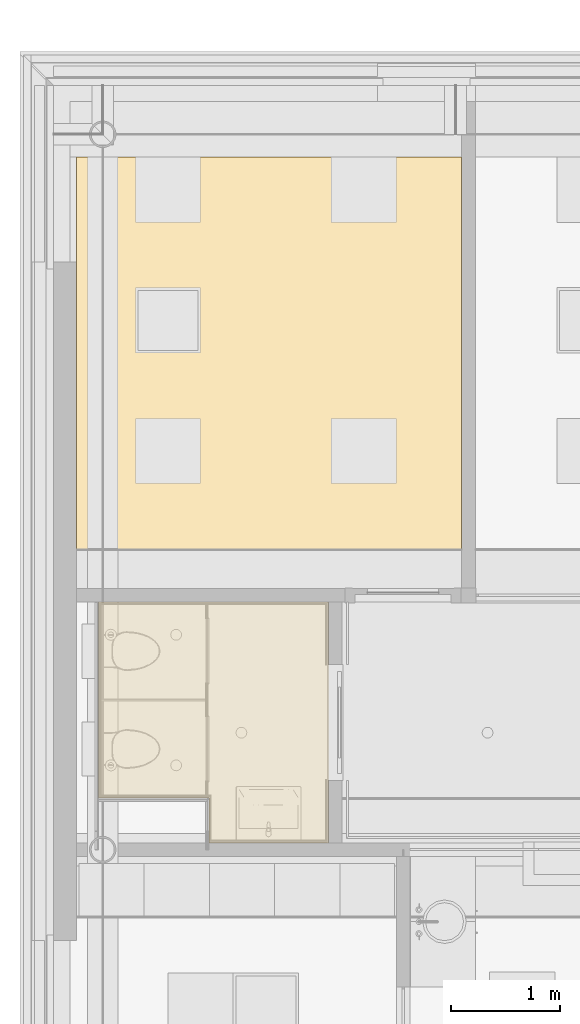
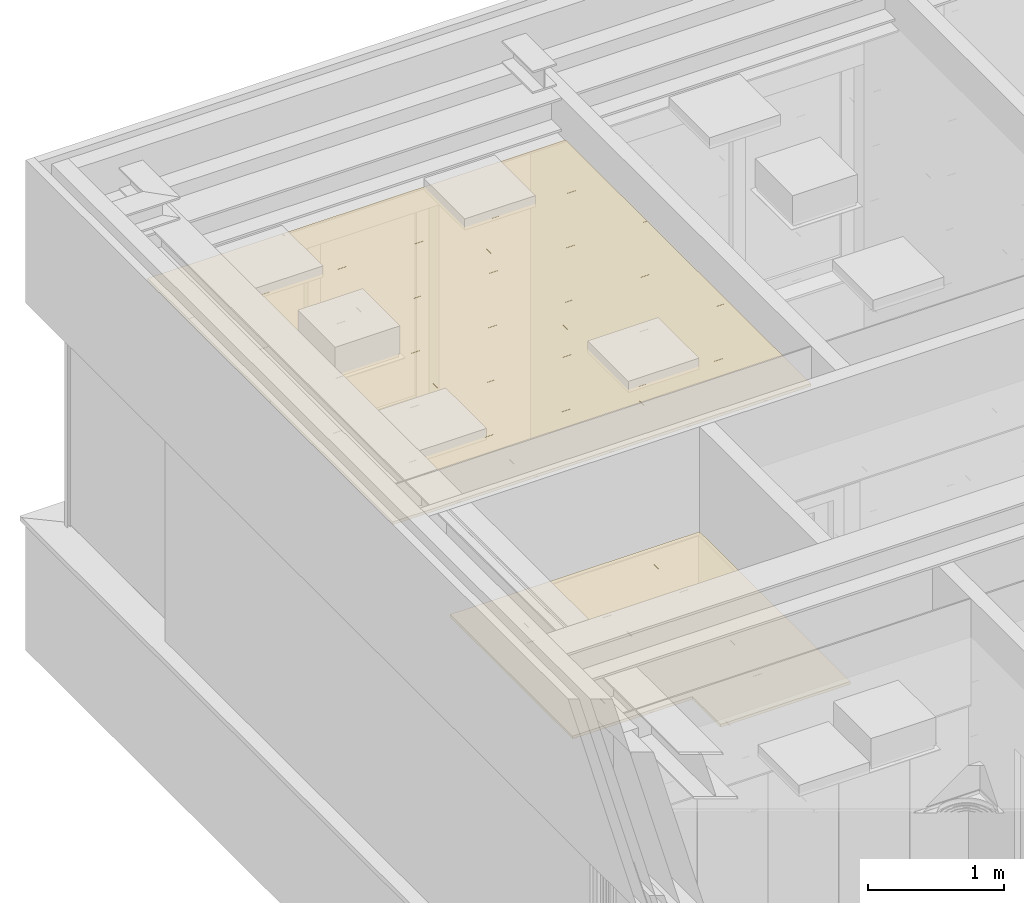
# One storey, part 159 of 347: 2 coverings.
"""IFC2X3 building model written with IfcOpenShell, lengths in millimetres."""

import ifcopenshell
import ifcopenshell.guid

model = None  # the IFC model being written
_history = None  # IfcOwnerHistory: only IFC2X3 demands one
_inside = {}  # id of a spatial element -> (the spatial element, [elements in it])
_under = {}  # id of a project, library or spatial element -> (it, [spatial elements below it])
_declared = {}  # id of a project -> (the project, [libraries it declares])
_typed = {}  # id of a type object -> (the type object, [elements of that type])
_made_of = {}  # id of a material, layer set ... -> (it, [elements and type objects made of it])


def new_model(schema):
    """Start an empty IFC model of exactly this schema.

    Asked for "IFC4X3", IfcOpenShell would pick the latest addendum, in which some entities
    have other attributes; the version numbers below select the first issue.
    IFC2X3 requires an IfcOwnerHistory on every rooted entity: one is made here for all.
    """
    global model, _history
    if schema == "IFC4X3":
        model = ifcopenshell.file(schema_version=(4, 3, 0, 0))
    else:
        model = ifcopenshell.file(schema=schema)
    _inside.clear()
    _under.clear()
    _declared.clear()
    _typed.clear()
    _made_of.clear()
    _history = None
    if model.schema == "IFC2X3":
        org = make("IfcOrganization", Name="unknown")
        user = make(
            "IfcPersonAndOrganization",
            ThePerson=make("IfcPerson", FamilyName="unknown"),
            TheOrganization=org,
        )
        app = make(
            "IfcApplication",
            ApplicationDeveloper=org,
            Version="unknown",
            ApplicationFullName="unknown",
            ApplicationIdentifier="unknown",
        )
        _history = make(
            "IfcOwnerHistory",
            OwningUser=user,
            OwningApplication=app,
            ChangeAction="ADDED",
            CreationDate=0,
        )
    return model


def make(cls, **values):
    """One entity of the class cls with the attributes given. An attribute that is None is left unset."""
    return model.create_entity(
        cls, **{name: value for name, value in values.items() if value is not None}
    )


def entity(cls, *values):
    """Any entity or typed value of the class cls, its attributes in the order of the schema. None: left unset."""
    e = model.create_entity(cls)
    for i, value in enumerate(values):
        if value is not None:
            e[i] = value
    return e


def rooted(cls, **values):
    """An entity with a GlobalId (a new one), such as an element, a storey or a relation."""
    return make(cls, GlobalId=ifcopenshell.guid.new(), OwnerHistory=_history, **values)


def si_unit(unit_type, name, prefix=None):
    """IfcSIUnit, for example si_unit("LENGTHUNIT", "METRE", prefix="MILLI")."""
    return make("IfcSIUnit", UnitType=unit_type, Prefix=prefix, Name=name)


def converted_unit(unit_type, name, factor, base, dimensions=None, offset=None):
    """IfcConversionBasedUnit, such as the inch: factor (a typed value) times the base unit."""
    return make(
        "IfcConversionBasedUnit"
        if offset is None
        else "IfcConversionBasedUnitWithOffset",
        ConversionOffset=offset,
        Dimensions=None
        if dimensions is None
        else entity("IfcDimensionalExponents", *dimensions),
        UnitType=unit_type,
        Name=name,
        ConversionFactor=make(
            "IfcMeasureWithUnit", ValueComponent=factor, UnitComponent=base
        ),
    )


def derived_unit(unit_type, elements):
    """IfcDerivedUnit: a product of units, each with its exponent."""
    return make(
        "IfcDerivedUnit",
        Elements=[
            make("IfcDerivedUnitElement", Unit=unit, Exponent=power)
            for unit, power in elements
        ],
        UnitType=unit_type,
    )


def money_unit(currency):
    """IfcMonetaryUnit."""
    return make("IfcMonetaryUnit", Currency=currency)


def assignment(units):
    """IfcUnitAssignment: the units of a project."""
    return None if units is None else make("IfcUnitAssignment", Units=units)


def point(xyz):
    """IfcCartesianPoint."""
    return None if xyz is None else make("IfcCartesianPoint", Coordinates=xyz)


def direction(xyz):
    """IfcDirection."""
    return None if xyz is None else make("IfcDirection", DirectionRatios=xyz)


def frame(location, z_axis=None, x_axis=None):
    """IfcAxis2Placement3D, a coordinate frame: its origin and axes. An axis left out is left unset."""
    return make(
        "IfcAxis2Placement3D",
        Location=point(location),
        Axis=direction(z_axis),
        RefDirection=direction(x_axis),
    )


def origin_with_axes():
    """The frame at (0, 0, 0) with the z axis (0, 0, 1) and the x axis (1, 0, 0) written out."""
    return frame((0.0, 0.0, 0.0), z_axis=(0.0, 0.0, 1.0), x_axis=(1.0, 0.0, 0.0))


def place(relative_to, where):
    """IfcLocalPlacement: puts the frame where relative to a parent placement (None: the world)."""
    return make(
        "IfcLocalPlacement", PlacementRelTo=relative_to, RelativePlacement=where
    )


def context(
    kind, dimensions, precision=None, world=None, true_north=None, identifier=None
):
    """IfcGeometricRepresentationContext, for example the 3D "Model" context."""
    return make(
        "IfcGeometricRepresentationContext",
        ContextIdentifier=identifier,
        ContextType=kind,
        CoordinateSpaceDimension=dimensions,
        Precision=precision,
        WorldCoordinateSystem=world,
        TrueNorth=true_north,
    )


def subcontext(parent, identifier, kind, view, scale=None):
    """IfcGeometricRepresentationSubContext, for example "Body" below "Model"."""
    return make(
        "IfcGeometricRepresentationSubContext",
        ContextIdentifier=identifier,
        ContextType=kind,
        ParentContext=parent,
        TargetScale=scale,
        TargetView=view,
    )


def project(units=None, contexts=None):
    """IfcProject with its units and contexts."""
    return rooted(
        "IfcProject",
        Name="project",
        RepresentationContexts=contexts,
        UnitsInContext=assignment(units),
    )


def spatial(cls, under=None, at=None, **own):
    """A site, building, storey or space (cls), placed at a placement, below another one or the project."""
    s = rooted(cls, ObjectPlacement=at, **own)
    if under is not None:
        _under.setdefault(under.id(), (under, []))[1].append(s)
    return s


def faces_of(points, faces, orient=None, outer=None):
    """IfcFace entities. A face is a list of loops; a loop is a list of indices into points, from 0.

    orient and outer hold one flag for each loop. By default every Orientation is true, the
    first loop of a face is its IfcFaceOuterBound and the others are IfcFaceBound.
    """
    made = []
    for i, loops in enumerate(faces):
        bounds = []
        for j, loop in enumerate(loops):
            is_outer = j == 0 if outer is None else outer[i][j]
            bounds.append(
                make(
                    "IfcFaceOuterBound" if is_outer else "IfcFaceBound",
                    Bound=make("IfcPolyLoop", Polygon=[points[k] for k in loop]),
                    Orientation=True if orient is None else orient[i][j],
                )
            )
        made.append(make("IfcFace", Bounds=bounds))
    return made


def faceted_brep(points, faces, orient=None, outer=None, voids=None):
    """IfcFacetedBrep: a solid bounded by flat faces; with voids (closed shells), ...WithVoids."""
    shared = [point(p) for p in points]
    hull = make("IfcClosedShell", CfsFaces=faces_of(shared, faces, orient, outer))
    if voids is None:
        return make("IfcFacetedBrep", Outer=hull)
    return make(
        "IfcFacetedBrepWithVoids",
        Outer=hull,
        Voids=[
            make(cls, CfsFaces=faces_of(shared, fs, o, b)) for cls, fs, o, b in voids
        ],
    )


def shape(context_of_items, identifier, shape_type, items):
    """IfcShapeRepresentation: the items that make up one representation, for example the "Body"."""
    return make(
        "IfcShapeRepresentation",
        ContextOfItems=context_of_items,
        RepresentationIdentifier=identifier,
        RepresentationType=shape_type,
        Items=items,
    )


def made_of(thing, what):
    """Note that an element or type object is made of a material, layer set ...; save() writes the relation."""
    if what is not None:
        _made_of.setdefault(what.id(), (what, []))[1].append(thing)
    return thing


def type_object(cls, material=None, **own):
    """A type object (cls), such as IfcWallType, which elements share."""
    return made_of(rooted(cls, **own), material)


def element(
    cls,
    number,
    at=None,
    inside=None,
    cuts=None,
    type_object=None,
    material=None,
    context=None,
    identifier="Body",
    shape_type=None,
    held_by="IfcProductDefinitionShape",
    body=None,
    shapes=None,
    **own,
):
    """One element of the class cls, such as IfcWall. Its Tag is "e" and its number.

    at: its placement. inside: the storey or other place that contains it. cuts: it is an
    opening in that element (IfcRelVoidsElement). A single representation is given by context,
    identifier, shape_type and body (its items); several are given by shapes. held_by: the class
    of the entity that holds the representations. save() writes the other relations.
    """
    e = rooted(cls, Tag="e%d" % number, ObjectPlacement=at, **own)
    if body is not None:
        shapes = [shape(context, identifier, shape_type, body)]
    if shapes is not None:
        e.Representation = make(held_by, Representations=shapes)
    if inside is not None:
        _inside.setdefault(inside.id(), (inside, []))[1].append(e)
    if cuts is not None:
        rooted(
            "IfcRelVoidsElement", RelatingBuildingElement=cuts, RelatedOpeningElement=e
        )
    if type_object is not None:
        _typed.setdefault(type_object.id(), (type_object, []))[1].append(e)
    return made_of(e, material)


def aggregate(whole, parts):
    """IfcRelAggregates: a whole, such as a stair, and the parts it consists of."""
    return rooted("IfcRelAggregates", RelatingObject=whole, RelatedObjects=parts)


def save(model, path):
    """Write the relations noted so far, then the file.

    IfcRelAggregates (storeys below a building ...), IfcRelContainedInSpatialStructure (elements
    in a storey), IfcRelDefinesByType, IfcRelAssociatesMaterial and IfcRelDeclares: one each for
    every whole, place, type object, material and project.
    """
    for whole, parts in _under.values():
        aggregate(whole, parts)
    for where, things in _inside.values():
        rooted(
            "IfcRelContainedInSpatialStructure",
            RelatedElements=things,
            RelatingStructure=where,
        )
    for kind, things in _typed.values():
        rooted("IfcRelDefinesByType", RelatedObjects=things, RelatingType=kind)
    for what, things in _made_of.values():
        rooted("IfcRelAssociatesMaterial", RelatedObjects=things, RelatingMaterial=what)
    for by, libraries in _declared.values():
        rooted("IfcRelDeclares", RelatingContext=by, RelatedDefinitions=libraries)
    model.write(path)


model = new_model("IFC2X3")

# Units and contexts
model_context = context("Model", 3, precision=0.01, world=origin_with_axes(), true_north=direction((0.0, 1.0)))
plan_context = context("Plan", 3, precision=0.01, world=origin_with_axes(), true_north=direction((0.0, 1.0)))
body_context = subcontext(model_context, "Body", "Model", "MODEL_VIEW")
ifc_project = project(units=[si_unit("LENGTHUNIT", "METRE", prefix="MILLI"), si_unit("AREAUNIT", "SQUARE_METRE"), si_unit("VOLUMEUNIT", "CUBIC_METRE"), converted_unit("PLANEANGLEUNIT", "DEGREE", entity("IfcPlaneAngleMeasure", 0.0174532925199), si_unit("PLANEANGLEUNIT", "RADIAN"), dimensions=[0, 0, 0, 0, 0, 0, 0]), money_unit("EUR"), converted_unit("TIMEUNIT", "Year", entity("IfcTimeMeasure", 31556926.0), si_unit("TIMEUNIT", "SECOND"), dimensions=[0, 0, 1, 0, 0, 0, 0]), si_unit("MASSUNIT", "GRAM", prefix="KILO"), si_unit("THERMODYNAMICTEMPERATUREUNIT", "DEGREE_CELSIUS"), si_unit("LUMINOUSINTENSITYUNIT", "LUMEN"), si_unit("ENERGYUNIT", "JOULE", prefix="MEGA"), derived_unit("THERMALCONDUCTANCEUNIT", [(si_unit("POWERUNIT", "WATT"), 1), (si_unit("LENGTHUNIT", "METRE"), -1), (si_unit("THERMODYNAMICTEMPERATUREUNIT", "KELVIN"), -1)]), derived_unit("SPECIFICHEATCAPACITYUNIT", [(si_unit("ENERGYUNIT", "JOULE"), 1), (si_unit("MASSUNIT", "GRAM", prefix="KILO"), -1), (si_unit("THERMODYNAMICTEMPERATUREUNIT", "KELVIN"), -1)]), derived_unit("MASSDENSITYUNIT", [(si_unit("MASSUNIT", "GRAM", prefix="KILO"), 1), (si_unit("VOLUMEUNIT", "CUBIC_METRE"), -1)])], contexts=[model_context, plan_context])

# Site, building, storey
site_placement = place(None, origin_with_axes())
site = spatial("IfcSite", under=ifc_project, at=site_placement, Name="Site", CompositionType="ELEMENT")
building_placement = place(site_placement, origin_with_axes())
building = spatial("IfcBuilding", under=site, at=building_placement, Name="Naam gebouw", CompositionType="ELEMENT")
storey_placement = place(building_placement, origin_with_axes())
storey = spatial("IfcBuildingStorey", under=building, at=storey_placement, Name="begane grond", CompositionType="ELEMENT", Elevation=0.0)

# Coverings
covering_type = type_object("IfcCoveringType", Name="Ceiling Editor INT_v2.01", PredefinedType="CEILING")
covering_1_placement = place(storey_placement, frame((5260.0, 12600.0, 2600.0), z_axis=(0.0, 0.0, 1.0), x_axis=(1.0, 0.0, 0.0)))
element("IfcCovering", 1, at=covering_1_placement, inside=storey, type_object=covering_type, Name="45 Plafondafwerkingen_77 garderobe", PredefinedType="CEILING", context=body_context, shape_type="Brep", body=[
    faceted_brep([(0.0, 1199.9, 0.0), (0.0, 1199.9, 20.0), (414.900026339, 1199.9, 20.0), (414.900026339, 1199.9, 0.0), (0.0, 900.0, 0.0), (0.0, 900.0, 20.0), (0.0, 450.0, 20.0), (0.0, 0.1, 20.0), (414.900026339, 0.1, 20.0), (414.900026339, 0.1, 0.0), (0.0, 0.1, 0.0), (0.0, 450.0, 0.0)], [[[0, 1, 2, 3]], [[1, 0, 4, 5]], [[6, 7, 8, 2, 1, 5]], [[8, 9, 3, 2]], [[4, 0, 3, 9, 10, 11]], [[6, 5, 4, 11]], [[7, 6, 11, 10]], [[7, 10, 9, 8]]]),
    faceted_brep([(414.900026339, 1800.0, 0.0), (414.900026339, 1800.0, 20.0), (414.900026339, 1200.1, 20.0), (414.900026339, 1200.1, 0.0), (0.0, 1800.0, 0.0), (0.0, 1800.0, 20.0), (0.0, 1350.0, 20.0), (0.0, 1200.1, 20.0), (0.0, 1200.1, 0.0), (0.0, 1350.0, 0.0)], [[[0, 1, 2, 3]], [[1, 0, 4, 5]], [[6, 7, 2, 1, 5]], [[7, 8, 3, 2]], [[4, 0, 3, 8, 9]], [[6, 5, 4, 9]], [[7, 6, 9, 8]]]),
    faceted_brep([(1014.90002634, 0.1, 20.0), (1014.90002634, 0.1, 0.0), (1014.90002634, 1199.9, 0.0), (1014.90002634, 1199.9, 20.0), (415.100026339, 0.1, 20.0), (415.100026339, 0.1, 0.0), (415.100026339, 1199.9, 0.0), (415.100026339, 1199.9, 20.0)], [[[0, 1, 2, 3]], [[4, 5, 1, 0]], [[2, 1, 5, 6]], [[3, 2, 6, 7]], [[4, 0, 3, 7]], [[7, 6, 5, 4]]]),
    faceted_brep([(1014.90002634, 1800.0, 0.0), (1014.90002634, 1800.0, 20.0), (1014.90002634, 1200.1, 20.0), (1014.90002634, 1200.1, 0.0), (528.75, 1800.0, 0.0), (528.75, 1800.0, 20.0), (415.100026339, 1800.0, 20.0), (415.100026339, 1200.1, 20.0), (415.100026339, 1200.1, 0.0), (415.100026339, 1800.0, 0.0)], [[[0, 1, 2, 3]], [[1, 0, 4, 5]], [[5, 6, 7, 2, 1]], [[7, 8, 3, 2]], [[4, 0, 3, 8, 9]], [[6, 5, 4, 9]], [[6, 9, 8, 7]]]),
    faceted_brep([(1015.10002634, -412.5, 20.0), (1614.90002634, -412.5, 20.0), (1614.90002634, -0.1, 20.0), (1015.10002634, -0.1, 20.0), (1015.10002634, -412.5, 0.0), (1614.90002634, -412.5, 0.0), (1614.90002634, -0.1, 0.0), (1015.10002634, -0.1, 0.0)], [[[0, 1, 2, 3]], [[1, 0, 4, 5]], [[1, 5, 6, 2]], [[2, 6, 7, 3]], [[4, 0, 3, 7]], [[5, 4, 7, 6]]]),
    faceted_brep([(1614.90002634, 0.1, 20.0), (1614.90002634, 0.1, 0.0), (1614.90002634, 1199.9, 0.0), (1614.90002634, 1199.9, 20.0), (1015.10002634, 0.1, 20.0), (1015.10002634, 0.1, 0.0), (1015.10002634, 1199.9, 0.0), (1015.10002634, 1199.9, 20.0)], [[[0, 1, 2, 3]], [[4, 5, 1, 0]], [[2, 1, 5, 6]], [[3, 2, 6, 7]], [[4, 0, 3, 7]], [[7, 6, 5, 4]]]),
    faceted_brep([(1614.90002634, 1800.0, 0.0), (1614.90002634, 1800.0, 20.0), (1614.90002634, 1200.1, 20.0), (1614.90002634, 1200.1, 0.0), (1586.25, 1800.0, 0.0), (1586.25, 1800.0, 20.0), (1057.5, 1800.0, 20.0), (1015.10002634, 1800.0, 20.0), (1015.10002634, 1200.1, 20.0), (1015.10002634, 1200.1, 0.0), (1015.10002634, 1800.0, 0.0), (1057.5, 1800.0, 0.0)], [[[0, 1, 2, 3]], [[1, 0, 4, 5]], [[6, 7, 8, 2, 1, 5]], [[8, 9, 3, 2]], [[4, 0, 3, 9, 10, 11]], [[6, 5, 4, 11]], [[7, 6, 11, 10]], [[7, 10, 9, 8]]]),
    faceted_brep([(2115.0, -412.5, 20.0), (2115.0, -0.1, 20.0), (1615.10002634, -0.1, 20.0), (1615.10002634, -412.5, 20.0), (2115.0, -412.5, 0.0), (2115.0, -0.1, 0.0), (1615.10002634, -0.1, 0.0), (1615.10002634, -412.5, 0.0)], [[[0, 1, 2, 3]], [[1, 0, 4, 5]], [[1, 5, 6, 2]], [[7, 3, 2, 6]], [[0, 3, 7, 4]], [[4, 7, 6, 5]]]),
    faceted_brep([(2115.0, 900.0, 20.0), (2115.0, 1199.9, 20.0), (1615.10002634, 1199.9, 20.0), (1615.10002634, 0.1, 20.0), (2115.0, 0.1, 20.0), (2115.0, 450.0, 20.0), (2115.0, 900.0, 0.0), (2115.0, 1199.9, 0.0), (1615.10002634, 1199.9, 0.0), (1615.10002634, 0.1, 0.0), (2115.0, 0.1, 0.0), (2115.0, 450.0, 0.0)], [[[0, 1, 2, 3, 4, 5]], [[1, 0, 6, 7]], [[1, 7, 8, 2]], [[2, 8, 9, 3]], [[10, 4, 3, 9]], [[5, 4, 10, 11]], [[0, 5, 11, 6]], [[11, 10, 9, 8, 7, 6]]]),
    faceted_brep([(2115.0, 1350.0, 20.0), (2115.0, 1800.0, 20.0), (1615.10002634, 1800.0, 20.0), (1615.10002634, 1200.1, 20.0), (2115.0, 1200.1, 20.0), (2115.0, 1350.0, 0.0), (2115.0, 1800.0, 0.0), (1615.10002634, 1800.0, 0.0), (1615.10002634, 1200.1, 0.0), (2115.0, 1200.1, 0.0)], [[[0, 1, 2, 3, 4]], [[1, 0, 5, 6]], [[2, 1, 6, 7]], [[2, 7, 8, 3]], [[9, 4, 3, 8]], [[0, 4, 9, 5]], [[5, 9, 8, 7, 6]]]),
    faceted_brep([(1002.50002634, 25.0, -5.0), (1002.50002634, 25.0, 0.0), (1002.50002634, 1187.5, 0.0), (1002.50002634, 1187.5, -5.0), (427.500026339, 25.0, -5.0), (427.500026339, 25.0, 0.0), (2115.0, -412.5, 0.0), (2115.0, -12.5, 0.0), (2115.0, 12.5, 0.0), (2115.0, 1187.5, 0.0), (2115.0, 1212.5, 0.0), (2115.0, 1800.0, 0.0), (1627.50002634, 1800.0, 0.0), (1602.50002634, 1800.0, 0.0), (1027.50002634, 1800.0, 0.0), (1002.50002634, 1800.0, 0.0), (427.500026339, 1800.0, 0.0), (402.500026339, 1800.0, 0.0), (0.0, 1800.0, 0.0), (0.0, 1212.5, 0.0), (0.0, 1187.5, 0.0), (0.0, 12.5, 0.0), (0.0, 0.0, 0.0), (528.75, 0.0, 0.0), (1015.00002634, 0.0, 0.0), (1015.00002634, -412.5, 0.0), (1027.50002634, -412.5, 0.0), (1602.50002634, -412.5, 0.0), (1627.50002634, -412.5, 0.0), (427.500026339, 1187.5, 0.0), (1040.00002634, 25.0, 0.0), (1027.50002634, 25.0, 0.0), (1027.50002634, 1187.5, 0.0), (1602.50002634, 1187.5, 0.0), (1602.50002634, 12.5, 0.0), (1040.00002634, 12.5, 0.0), (25.0, 1187.5, 0.0), (402.500026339, 1187.5, 0.0), (402.500026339, 25.0, 0.0), (25.0, 25.0, 0.0), (402.500026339, 1775.0, 0.0), (402.500026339, 1212.5, 0.0), (25.0, 1212.5, 0.0), (25.0, 1775.0, 0.0), (1002.50002634, 1775.0, 0.0), (1002.50002634, 1212.5, 0.0), (427.500026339, 1212.5, 0.0), (427.500026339, 1775.0, 0.0), (1602.50002634, 1775.0, 0.0), (1602.50002634, 1212.5, 0.0), (1027.50002634, 1212.5, 0.0), (1027.50002634, 1775.0, 0.0), (2090.0, 1212.5, 0.0), (1627.50002634, 1212.5, 0.0), (1627.50002634, 1775.0, 0.0), (2090.0, 1775.0, 0.0), (2090.0, 12.5, 0.0), (1627.50002634, 12.5, 0.0), (1627.50002634, 1187.5, 0.0), (2090.0, 1187.5, 0.0), (1040.00002634, -12.5, 0.0), (1602.50002634, -12.5, 0.0), (1602.50002634, -387.5, 0.0), (1040.00002634, -387.5, 0.0), (2090.0, -387.5, 0.0), (1627.50002634, -387.5, 0.0), (1627.50002634, -12.5, 0.0), (2090.0, -12.5, 0.0), (427.500026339, 1187.5, -5.0), (2115.0, -412.5, -5.0), (1627.50002634, -412.5, -5.0), (1602.50002634, -412.5, -5.0), (1027.50002634, -412.5, -5.0), (1015.00002634, -412.5, -5.0), (1015.00002634, 0.0, -5.0), (528.75, 0.0, -5.0), (0.0, 0.0, -5.0), (0.0, 12.5, -5.0), (0.0, 1187.5, -5.0), (0.0, 1212.5, -5.0), (0.0, 1800.0, -5.0), (402.500026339, 1800.0, -5.0), (427.500026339, 1800.0, -5.0), (1002.50002634, 1800.0, -5.0), (1027.50002634, 1800.0, -5.0), (1602.50002634, 1800.0, -5.0), (1627.50002634, 1800.0, -5.0), (2115.0, 1800.0, -5.0), (2115.0, 1212.5, -5.0), (2115.0, 1187.5, -5.0), (2115.0, 12.5, -5.0), (2115.0, -12.5, -5.0), (1040.00002634, 25.0, -5.0), (1040.00002634, 12.5, -5.0), (1602.50002634, 12.5, -5.0), (1602.50002634, 1187.5, -5.0), (1027.50002634, 1187.5, -5.0), (1027.50002634, 25.0, -5.0), (25.0, 1187.5, -5.0), (25.0, 25.0, -5.0), (402.500026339, 25.0, -5.0), (402.500026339, 1187.5, -5.0), (402.500026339, 1775.0, -5.0), (25.0, 1775.0, -5.0), (25.0, 1212.5, -5.0), (402.500026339, 1212.5, -5.0), (1002.50002634, 1775.0, -5.0), (427.500026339, 1775.0, -5.0), (427.500026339, 1212.5, -5.0), (1002.50002634, 1212.5, -5.0), (1602.50002634, 1775.0, -5.0), (1027.50002634, 1775.0, -5.0), (1027.50002634, 1212.5, -5.0), (1602.50002634, 1212.5, -5.0), (2090.0, 1775.0, -5.0), (1627.50002634, 1775.0, -5.0), (1627.50002634, 1212.5, -5.0), (2090.0, 1212.5, -5.0), (2090.0, 1187.5, -5.0), (1627.50002634, 1187.5, -5.0), (1627.50002634, 12.5, -5.0), (2090.0, 12.5, -5.0), (1040.00002634, -387.5, -5.0), (1602.50002634, -387.5, -5.0), (1602.50002634, -12.5, -5.0), (1040.00002634, -12.5, -5.0), (2090.0, -387.5, -5.0), (2090.0, -12.5, -5.0), (1627.50002634, -12.5, -5.0), (1627.50002634, -387.5, -5.0)], [[[0, 1, 2, 3]], [[1, 0, 4, 5]], [[6, 7, 8, 9, 10, 11, 12, 13, 14, 15, 16, 17, 18, 19, 20, 21, 22, 23, 24, 25, 26, 27, 28], [1, 5, 29, 2], [30, 31, 32, 33, 34, 35], [36, 37, 38, 39], [40, 41, 42, 43], [44, 45, 46, 47], [48, 49, 50, 51], [52, 53, 54, 55], [56, 57, 58, 59], [60, 61, 62, 63], [64, 65, 66, 67]], [[68, 3, 2, 29]], [[69, 70, 71, 72, 73, 74, 75, 76, 77, 78, 79, 80, 81, 82, 83, 84, 85, 86, 87, 88, 89, 90, 91], [0, 3, 68, 4], [92, 93, 94, 95, 96, 97], [98, 99, 100, 101], [102, 103, 104, 105], [106, 107, 108, 109], [110, 111, 112, 113], [114, 115, 116, 117], [118, 119, 120, 121], [122, 123, 124, 125], [126, 127, 128, 129]], [[5, 4, 68, 29]], [[6, 69, 91, 90, 89, 88, 87, 11, 10, 9, 8, 7]], [[11, 87, 86, 85, 84, 83, 82, 81, 80, 18, 17, 16, 15, 14, 13, 12]], [[18, 80, 79, 78, 77, 76, 22, 21, 20, 19]], [[75, 23, 22, 76]], [[23, 75, 74, 24]], [[74, 73, 25, 24]], [[69, 6, 28, 27, 26, 25, 73, 72, 71, 70]], [[30, 92, 97, 31]], [[31, 97, 96, 32]], [[96, 95, 33, 32]], [[95, 94, 34, 33]], [[93, 35, 34, 94]], [[92, 30, 35, 93]], [[36, 98, 101, 37]], [[100, 38, 37, 101]], [[99, 39, 38, 100]], [[98, 36, 39, 99]], [[40, 102, 105, 41]], [[104, 42, 41, 105]], [[103, 43, 42, 104]], [[102, 40, 43, 103]], [[44, 106, 109, 45]], [[46, 45, 109, 108]], [[107, 47, 46, 108]], [[106, 44, 47, 107]], [[48, 110, 113, 49]], [[50, 49, 113, 112]], [[111, 51, 50, 112]], [[110, 48, 51, 111]], [[52, 117, 116, 53]], [[115, 54, 53, 116]], [[114, 55, 54, 115]], [[52, 55, 114, 117]], [[56, 121, 120, 57]], [[58, 57, 120, 119]], [[118, 59, 58, 119]], [[56, 59, 118, 121]], [[60, 125, 124, 61]], [[123, 62, 61, 124]], [[122, 63, 62, 123]], [[125, 60, 63, 122]], [[64, 126, 129, 65]], [[65, 129, 128, 66]], [[127, 67, 66, 128]], [[126, 64, 67, 127]]]),
])
covering_2_placement = place(storey_placement, frame((5060.0, 14890.0000948, 3200.0), z_axis=(0.0, 0.0, 1.0), x_axis=(1.0, 0.0, 0.0)))
element("IfcCovering", 2, at=covering_2_placement, inside=storey, type_object=covering_type, Name="45 Plafondafwerkingen_77 garderobe", PredefinedType="CEILING", context=body_context, shape_type="Brep", body=[
    faceted_brep([(0.0, 599.9, 0.0), (0.0, 599.9, 20.0), (1139.9, 599.9, 20.0), (1139.9, 599.9, 0.0), (0.0, 0.100000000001, 0.0), (0.0, 0.100000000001, 20.0), (1139.9, 0.100000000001, 20.0), (1139.9, 0.100000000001, 0.0)], [[[0, 1, 2, 3]], [[1, 0, 4, 5]], [[1, 5, 6, 2]], [[6, 7, 3, 2]], [[4, 0, 3, 7]], [[5, 4, 7, 6]]]),
    faceted_brep([(0.0, 1199.9, 0.0), (0.0, 1199.9, 20.0), (1139.9, 1199.9, 20.0), (1139.9, 1199.9, 0.0), (0.0, 900.000012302, 0.0), (0.0, 900.000012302, 20.0), (0.0, 600.1, 20.0), (1139.9, 600.1, 20.0), (1139.9, 600.1, 0.0), (0.0, 600.1, 0.0)], [[[0, 1, 2, 3]], [[1, 0, 4, 5]], [[5, 6, 7, 2, 1]], [[7, 8, 3, 2]], [[4, 0, 3, 8, 9]], [[6, 5, 4, 9]], [[6, 9, 8, 7]]]),
    faceted_brep([(0.0, 1799.9, 0.0), (0.0, 1799.9, 20.0), (1139.9, 1799.9, 20.0), (1139.9, 1799.9, 0.0), (0.0, 1200.1, 0.0), (0.0, 1200.1, 20.0), (1139.9, 1200.1, 20.0), (1139.9, 1200.1, 0.0)], [[[0, 1, 2, 3]], [[1, 0, 4, 5]], [[1, 5, 6, 2]], [[6, 7, 3, 2]], [[4, 0, 3, 7]], [[5, 4, 7, 6]]]),
    faceted_brep([(0.0, 2399.9, 0.0), (0.0, 2399.9, 20.0), (1139.9, 2399.9, 20.0), (1139.9, 2399.9, 0.0), (0.0, 1800.1, 0.0), (0.0, 1800.1, 20.0), (1139.9, 1800.1, 20.0), (1139.9, 1800.1, 0.0)], [[[0, 1, 2, 3]], [[1, 0, 4, 5]], [[1, 5, 6, 2]], [[6, 7, 3, 2]], [[4, 0, 3, 7]], [[5, 4, 7, 6]]]),
    faceted_brep([(0.0, 2999.9, 0.0), (0.0, 2999.9, 20.0), (1139.9, 2999.9, 20.0), (1139.9, 2999.9, 0.0), (0.0, 2700.00003691, 0.0), (0.0, 2700.00003691, 20.0), (0.0, 2400.1, 20.0), (1139.9, 2400.1, 20.0), (1139.9, 2400.1, 0.0), (0.0, 2400.1, 0.0)], [[[0, 1, 2, 3]], [[1, 0, 4, 5]], [[5, 6, 7, 2, 1]], [[7, 8, 3, 2]], [[4, 0, 3, 8, 9]], [[6, 5, 4, 9]], [[6, 9, 8, 7]]]),
    faceted_brep([(0.0, 3599.9, 0.0), (0.0, 3599.9, 20.0), (1139.9, 3599.9, 20.0), (1139.9, 3599.9, 0.0), (0.0, 3000.1, 0.0), (0.0, 3000.1, 20.0), (1139.9, 3000.1, 20.0), (1139.9, 3000.1, 0.0)], [[[0, 1, 2, 3]], [[1, 0, 4, 5]], [[1, 5, 6, 2]], [[6, 7, 3, 2]], [[4, 0, 3, 7]], [[5, 4, 7, 6]]]),
    faceted_brep([(2339.9, 0.100000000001, 20.0), (2339.9, 0.100000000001, 0.0), (2339.9, 599.9, 0.0), (2339.9, 599.9, 20.0), (1140.1, 0.100000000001, 20.0), (1140.1, 0.100000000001, 0.0), (1140.1, 599.9, 0.0), (1140.1, 599.9, 20.0)], [[[0, 1, 2, 3]], [[4, 5, 1, 0]], [[2, 1, 5, 6]], [[3, 2, 6, 7]], [[4, 0, 3, 7]], [[7, 6, 5, 4]]]),
    faceted_brep([(2339.9, 600.1, 20.0), (2339.9, 600.1, 0.0), (2339.9, 1199.9, 0.0), (2339.9, 1199.9, 20.0), (1140.1, 600.1, 20.0), (1140.1, 600.1, 0.0), (1140.1, 1199.9, 0.0), (1140.1, 1199.9, 20.0)], [[[0, 1, 2, 3]], [[4, 5, 1, 0]], [[2, 1, 5, 6]], [[3, 2, 6, 7]], [[4, 0, 3, 7]], [[7, 6, 5, 4]]]),
    faceted_brep([(2339.9, 1200.1, 20.0), (2339.9, 1200.1, 0.0), (2339.9, 1799.9, 0.0), (2339.9, 1799.9, 20.0), (1140.1, 1200.1, 20.0), (1140.1, 1200.1, 0.0), (1140.1, 1799.9, 0.0), (1140.1, 1799.9, 20.0)], [[[0, 1, 2, 3]], [[4, 5, 1, 0]], [[2, 1, 5, 6]], [[3, 2, 6, 7]], [[4, 0, 3, 7]], [[7, 6, 5, 4]]]),
    faceted_brep([(2339.9, 1800.1, 20.0), (2339.9, 1800.1, 0.0), (2339.9, 2399.9, 0.0), (2339.9, 2399.9, 20.0), (1140.1, 1800.1, 20.0), (1140.1, 1800.1, 0.0), (1140.1, 2399.9, 0.0), (1140.1, 2399.9, 20.0)], [[[0, 1, 2, 3]], [[4, 5, 1, 0]], [[2, 1, 5, 6]], [[3, 2, 6, 7]], [[4, 0, 3, 7]], [[7, 6, 5, 4]]]),
    faceted_brep([(2339.9, 2400.1, 20.0), (2339.9, 2400.1, 0.0), (2339.9, 2999.9, 0.0), (2339.9, 2999.9, 20.0), (1140.1, 2400.1, 20.0), (1140.1, 2400.1, 0.0), (1140.1, 2999.9, 0.0), (1140.1, 2999.9, 20.0)], [[[0, 1, 2, 3]], [[4, 5, 1, 0]], [[2, 1, 5, 6]], [[3, 2, 6, 7]], [[4, 0, 3, 7]], [[7, 6, 5, 4]]]),
    faceted_brep([(2339.9, 3000.1, 20.0), (2339.9, 3000.1, 0.0), (2339.9, 3599.9, 0.0), (2339.9, 3599.9, 20.0), (1140.1, 3000.1, 20.0), (1140.1, 3000.1, 0.0), (1140.1, 3599.9, 0.0), (1140.1, 3599.9, 20.0)], [[[0, 1, 2, 3]], [[4, 5, 1, 0]], [[2, 1, 5, 6]], [[3, 2, 6, 7]], [[4, 0, 3, 7]], [[7, 6, 5, 4]]]),
    faceted_brep([(3539.9, 0.100000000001, 20.0), (3539.9, 0.100000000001, 0.0), (3539.9, 599.9, 0.0), (3539.9, 599.9, 20.0), (2340.1, 0.100000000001, 20.0), (2340.1, 0.100000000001, 0.0), (2340.1, 599.9, 0.0), (2340.1, 599.9, 20.0)], [[[0, 1, 2, 3]], [[4, 5, 1, 0]], [[2, 1, 5, 6]], [[3, 2, 6, 7]], [[4, 0, 3, 7]], [[7, 6, 5, 4]]]),
    faceted_brep([(3539.9, 600.1, 20.0), (3539.9, 600.1, 0.0), (3539.9, 1199.9, 0.0), (3539.9, 1199.9, 20.0), (2340.1, 600.1, 20.0), (2340.1, 600.1, 0.0), (2340.1, 1199.9, 0.0), (2340.1, 1199.9, 20.0)], [[[0, 1, 2, 3]], [[4, 5, 1, 0]], [[2, 1, 5, 6]], [[3, 2, 6, 7]], [[4, 0, 3, 7]], [[7, 6, 5, 4]]]),
    faceted_brep([(3539.9, 1200.1, 20.0), (3539.9, 1200.1, 0.0), (3539.9, 1799.9, 0.0), (3539.9, 1799.9, 20.0), (2340.1, 1200.1, 20.0), (2340.1, 1200.1, 0.0), (2340.1, 1799.9, 0.0), (2340.1, 1799.9, 20.0)], [[[0, 1, 2, 3]], [[4, 5, 1, 0]], [[2, 1, 5, 6]], [[3, 2, 6, 7]], [[4, 0, 3, 7]], [[7, 6, 5, 4]]]),
    faceted_brep([(3539.9, 1800.1, 20.0), (3539.9, 1800.1, 0.0), (3539.9, 2399.9, 0.0), (3539.9, 2399.9, 20.0), (2340.1, 1800.1, 20.0), (2340.1, 1800.1, 0.0), (2340.1, 2399.9, 0.0), (2340.1, 2399.9, 20.0)], [[[0, 1, 2, 3]], [[4, 5, 1, 0]], [[2, 1, 5, 6]], [[3, 2, 6, 7]], [[4, 0, 3, 7]], [[7, 6, 5, 4]]]),
    faceted_brep([(3539.9, 2400.1, 20.0), (3539.9, 2400.1, 0.0), (3539.9, 2999.9, 0.0), (3539.9, 2999.9, 20.0), (2340.1, 2400.1, 20.0), (2340.1, 2400.1, 0.0), (2340.1, 2999.9, 0.0), (2340.1, 2999.9, 20.0)], [[[0, 1, 2, 3]], [[4, 5, 1, 0]], [[2, 1, 5, 6]], [[3, 2, 6, 7]], [[4, 0, 3, 7]], [[7, 6, 5, 4]]]),
    faceted_brep([(3539.9, 3000.1, 20.0), (3539.9, 3000.1, 0.0), (3539.9, 3599.9, 0.0), (3539.9, 3599.9, 20.0), (2340.1, 3000.1, 20.0), (2340.1, 3000.1, 0.0), (2340.1, 3599.9, 0.0), (2340.1, 3599.9, 20.0)], [[[0, 1, 2, 3]], [[4, 5, 1, 0]], [[2, 1, 5, 6]], [[3, 2, 6, 7]], [[4, 0, 3, 7]], [[7, 6, 5, 4]]]),
    faceted_brep([(1127.5, 25.0, -5.0), (1127.5, 25.0, 0.0), (1127.5, 587.5, 0.0), (1127.5, 587.5, -5.0), (25.0, 25.0, -5.0), (25.0, 25.0, 0.0), (0.0, 2987.5, 0.0), (0.0, 2412.5, 0.0), (0.0, 2387.5, 0.0), (0.0, 1812.5, 0.0), (0.0, 1800.0000246, 0.0), (0.0, 1787.5, 0.0), (0.0, 1212.5, 0.0), (0.0, 1187.5, 0.0), (0.0, 612.5, 0.0), (0.0, 587.5, 0.0), (0.0, 12.5, 0.0), (0.0, 0.0, 0.0), (885.0, 0.0, 0.0), (1770.0, 0.0, 0.0), (2655.0, 0.0, 0.0), (3540.0, 0.0, 0.0), (3540.0, 900.000012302, 0.0), (3540.0, 1800.0000246, 0.0), (3540.0, 2700.00003691, 0.0), (3540.0, 3600.00004921, 0.0), (2655.0, 3600.00004921, 0.0), (1770.0, 3600.00004921, 0.0), (885.0, 3600.00004921, 0.0), (0.0, 3600.00004921, 0.0), (0.0, 3587.5, 0.0), (0.0, 3012.5, 0.0), (1152.5, 2987.5, 0.0), (2327.5, 2987.5, 0.0), (2327.5, 2412.5, 0.0), (1152.5, 2412.5, 0.0), (3515.0, 2412.5, 0.0), (2352.5, 2412.5, 0.0), (2352.5, 2987.5, 0.0), (3515.0, 2987.5, 0.0), (1152.5, 25.0, 0.0), (1152.5, 587.5, 0.0), (2327.5, 587.5, 0.0), (2327.5, 25.0, 0.0), (2352.5, 25.0, 0.0), (2352.5, 587.5, 0.0), (3515.0, 587.5, 0.0), (3515.0, 25.0, 0.0), (1152.5, 1187.5, 0.0), (2327.5, 1187.5, 0.0), (2327.5, 612.5, 0.0), (1152.5, 612.5, 0.0), (3515.0, 612.5, 0.0), (2352.5, 612.5, 0.0), (2352.5, 1187.5, 0.0), (3515.0, 1187.5, 0.0), (1152.5, 1787.5, 0.0), (2327.5, 1787.5, 0.0), (2327.5, 1212.5, 0.0), (1152.5, 1212.5, 0.0), (3515.0, 1787.5, 0.0), (3515.0, 1212.5, 0.0), (2352.5, 1212.5, 0.0), (2352.5, 1787.5, 0.0), (1152.5, 2387.5, 0.0), (2327.5, 2387.5, 0.0), (2327.5, 1812.5, 0.0), (1152.5, 1812.5, 0.0), (3515.0, 2387.5, 0.0), (3515.0, 1812.5, 0.0), (2352.5, 1812.5, 0.0), (2352.5, 2387.5, 0.0), (2327.5, 3575.00004921, 0.0), (2327.5, 3012.5, 0.0), (1152.5, 3012.5, 0.0), (1152.5, 3575.00004921, 0.0), (3515.0, 3575.00004921, 0.0), (3515.0, 3012.5, 0.0), (2352.5, 3012.5, 0.0), (2352.5, 3575.00004921, 0.0), (25.0, 587.5, 0.0), (25.0, 1187.5, 0.0), (1127.5, 1187.5, 0.0), (1127.5, 612.5, 0.0), (25.0, 612.5, 0.0), (25.0, 1787.5, 0.0), (1127.5, 1787.5, 0.0), (1127.5, 1212.5, 0.0), (25.0, 1212.5, 0.0), (25.0, 2387.5, 0.0), (1127.5, 2387.5, 0.0), (1127.5, 1812.5, 0.0), (25.0, 1812.5, 0.0), (1127.5, 3575.00004921, 0.0), (1127.5, 3012.5, 0.0), (25.0, 3012.5, 0.0), (25.0, 3575.00004921, 0.0), (25.0, 2987.5, 0.0), (1127.5, 2987.5, 0.0), (1127.5, 2412.5, 0.0), (25.0, 2412.5, 0.0), (25.0, 587.5, -5.0), (0.0, 2987.5, -5.0), (0.0, 3012.5, -5.0), (0.0, 3587.5, -5.0), (0.0, 3600.00004921, -5.0), (885.0, 3600.00004921, -5.0), (1770.0, 3600.00004921, -5.0), (2655.0, 3600.00004921, -5.0), (3540.0, 3600.00004921, -5.0), (3540.0, 2700.00003691, -5.0), (3540.0, 1800.0000246, -5.0), (3540.0, 900.000012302, -5.0), (3540.0, 0.0, -5.0), (2655.0, 0.0, -5.0), (1770.0, 0.0, -5.0), (885.0, 0.0, -5.0), (0.0, 0.0, -5.0), (0.0, 12.5, -5.0), (0.0, 587.5, -5.0), (0.0, 612.5, -5.0), (0.0, 1187.5, -5.0), (0.0, 1212.5, -5.0), (0.0, 1787.5, -5.0), (0.0, 1800.0000246, -5.0), (0.0, 1812.5, -5.0), (0.0, 2387.5, -5.0), (0.0, 2412.5, -5.0), (2327.5, 2412.5, -5.0), (2327.5, 2987.5, -5.0), (1152.5, 2987.5, -5.0), (1152.5, 2412.5, -5.0), (3515.0, 2987.5, -5.0), (2352.5, 2987.5, -5.0), (2352.5, 2412.5, -5.0), (3515.0, 2412.5, -5.0), (2327.5, 25.0, -5.0), (2327.5, 587.5, -5.0), (1152.5, 587.5, -5.0), (1152.5, 25.0, -5.0), (3515.0, 25.0, -5.0), (3515.0, 587.5, -5.0), (2352.5, 587.5, -5.0), (2352.5, 25.0, -5.0), (2327.5, 612.5, -5.0), (2327.5, 1187.5, -5.0), (1152.5, 1187.5, -5.0), (1152.5, 612.5, -5.0), (3515.0, 1187.5, -5.0), (2352.5, 1187.5, -5.0), (2352.5, 612.5, -5.0), (3515.0, 612.5, -5.0), (2327.5, 1212.5, -5.0), (2327.5, 1787.5, -5.0), (1152.5, 1787.5, -5.0), (1152.5, 1212.5, -5.0), (3515.0, 1787.5, -5.0), (2352.5, 1787.5, -5.0), (2352.5, 1212.5, -5.0), (3515.0, 1212.5, -5.0), (2327.5, 1812.5, -5.0), (2327.5, 2387.5, -5.0), (1152.5, 2387.5, -5.0), (1152.5, 1812.5, -5.0), (3515.0, 2387.5, -5.0), (2352.5, 2387.5, -5.0), (2352.5, 1812.5, -5.0), (3515.0, 1812.5, -5.0), (1152.5, 3575.00004921, -5.0), (1152.5, 3012.5, -5.0), (2327.5, 3012.5, -5.0), (2327.5, 3575.00004921, -5.0), (3515.0, 3575.00004921, -5.0), (2352.5, 3575.00004921, -5.0), (2352.5, 3012.5, -5.0), (3515.0, 3012.5, -5.0), (25.0, 1187.5, -5.0), (25.0, 612.5, -5.0), (1127.5, 612.5, -5.0), (1127.5, 1187.5, -5.0), (25.0, 1787.5, -5.0), (25.0, 1212.5, -5.0), (1127.5, 1212.5, -5.0), (1127.5, 1787.5, -5.0), (25.0, 2387.5, -5.0), (25.0, 1812.5, -5.0), (1127.5, 1812.5, -5.0), (1127.5, 2387.5, -5.0), (25.0, 3575.00004921, -5.0), (25.0, 3012.5, -5.0), (1127.5, 3012.5, -5.0), (1127.5, 3575.00004921, -5.0), (25.0, 2987.5, -5.0), (25.0, 2412.5, -5.0), (1127.5, 2412.5, -5.0), (1127.5, 2987.5, -5.0)], [[[0, 1, 2, 3]], [[1, 0, 4, 5]], [[6, 7, 8, 9, 10, 11, 12, 13, 14, 15, 16, 17, 18, 19, 20, 21, 22, 23, 24, 25, 26, 27, 28, 29, 30, 31], [32, 33, 34, 35], [36, 37, 38, 39], [40, 41, 42, 43], [44, 45, 46, 47], [48, 49, 50, 51], [52, 53, 54, 55], [56, 57, 58, 59], [60, 61, 62, 63], [64, 65, 66, 67], [68, 69, 70, 71], [72, 73, 74, 75], [76, 77, 78, 79], [1, 5, 80, 2], [81, 82, 83, 84], [85, 86, 87, 88], [89, 90, 91, 92], [93, 94, 95, 96], [97, 98, 99, 100]], [[80, 101, 3, 2]], [[102, 103, 104, 105, 106, 107, 108, 109, 110, 111, 112, 113, 114, 115, 116, 117, 118, 119, 120, 121, 122, 123, 124, 125, 126, 127], [128, 129, 130, 131], [132, 133, 134, 135], [136, 137, 138, 139], [140, 141, 142, 143], [144, 145, 146, 147], [148, 149, 150, 151], [152, 153, 154, 155], [156, 157, 158, 159], [160, 161, 162, 163], [164, 165, 166, 167], [168, 169, 170, 171], [172, 173, 174, 175], [0, 3, 101, 4], [176, 177, 178, 179], [180, 181, 182, 183], [184, 185, 186, 187], [188, 189, 190, 191], [192, 193, 194, 195]], [[101, 80, 5, 4]], [[6, 31, 30, 29, 105, 104, 103, 102, 127, 126, 125, 124, 10, 9, 8, 7]], [[11, 10, 124, 123, 122, 121, 120, 119, 118, 117, 17, 16, 15, 14, 13, 12]], [[117, 116, 18, 17]], [[115, 19, 18, 116]], [[114, 20, 19, 115]], [[20, 114, 113, 21]], [[113, 112, 22, 21]], [[112, 111, 23, 22]], [[111, 110, 24, 23]], [[110, 109, 25, 24]], [[26, 25, 109, 108]], [[108, 107, 27, 26]], [[107, 106, 28, 27]], [[106, 105, 29, 28]], [[130, 129, 33, 32]], [[34, 33, 129, 128]], [[35, 34, 128, 131]], [[131, 130, 32, 35]], [[36, 135, 134, 37]], [[134, 133, 38, 37]], [[132, 39, 38, 133]], [[36, 39, 132, 135]], [[40, 139, 138, 41]], [[138, 137, 42, 41]], [[136, 43, 42, 137]], [[40, 43, 136, 139]], [[44, 143, 142, 45]], [[141, 46, 45, 142]], [[140, 47, 46, 141]], [[44, 47, 140, 143]], [[146, 145, 49, 48]], [[50, 49, 145, 144]], [[51, 50, 144, 147]], [[147, 146, 48, 51]], [[52, 151, 150, 53]], [[150, 149, 54, 53]], [[148, 55, 54, 149]], [[52, 55, 148, 151]], [[154, 153, 57, 56]], [[58, 57, 153, 152]], [[59, 58, 152, 155]], [[155, 154, 56, 59]], [[60, 156, 159, 61]], [[61, 159, 158, 62]], [[158, 157, 63, 62]], [[156, 60, 63, 157]], [[162, 161, 65, 64]], [[66, 65, 161, 160]], [[67, 66, 160, 163]], [[163, 162, 64, 67]], [[68, 164, 167, 69]], [[69, 167, 166, 70]], [[166, 165, 71, 70]], [[164, 68, 71, 165]], [[72, 171, 170, 73]], [[74, 73, 170, 169]], [[168, 75, 74, 169]], [[171, 72, 75, 168]], [[76, 172, 175, 77]], [[77, 175, 174, 78]], [[173, 79, 78, 174]], [[172, 76, 79, 173]], [[81, 176, 179, 82]], [[83, 82, 179, 178]], [[177, 84, 83, 178]], [[176, 81, 84, 177]], [[85, 180, 183, 86]], [[87, 86, 183, 182]], [[181, 88, 87, 182]], [[180, 85, 88, 181]], [[89, 184, 187, 90]], [[91, 90, 187, 186]], [[185, 92, 91, 186]], [[184, 89, 92, 185]], [[93, 191, 190, 94]], [[189, 95, 94, 190]], [[188, 96, 95, 189]], [[191, 93, 96, 188]], [[97, 192, 195, 98]], [[99, 98, 195, 194]], [[193, 100, 99, 194]], [[192, 97, 100, 193]]]),
])

save(model, "model.ifc")
